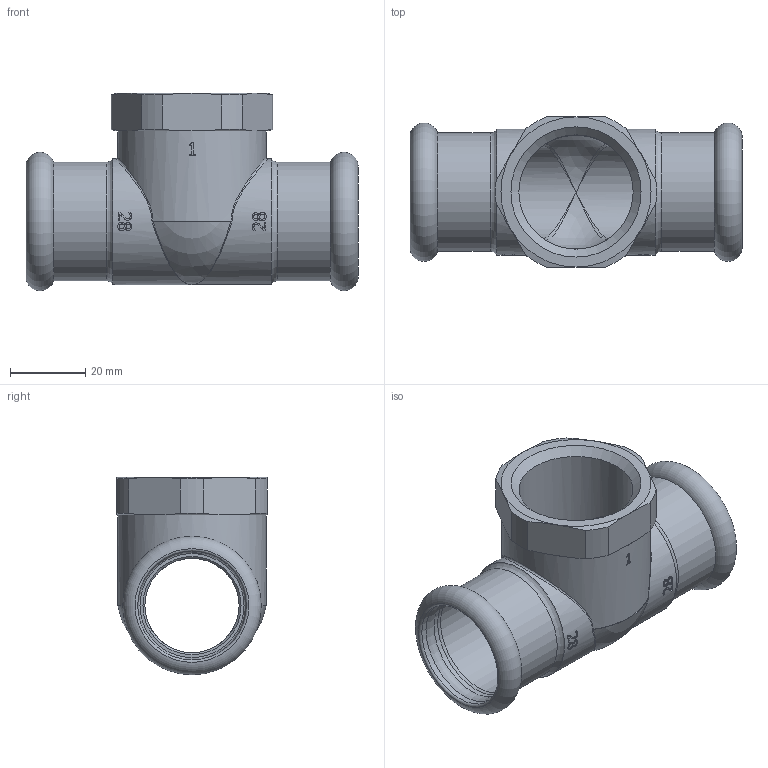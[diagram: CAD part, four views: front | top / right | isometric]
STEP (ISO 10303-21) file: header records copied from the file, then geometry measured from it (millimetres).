
FILE_DESCRIPTION(/* description */ (''),/* implementation_level */ '2;1');
FILE_NAME(/* name */ 'R:\Disegni3D_Area_Manager\Inoxpres.step\189_INOXPRES\189100028_Inoxpres.stp',/* time_stamp */ '2022-10-12T08:04:39+02:00',/* author */ ('Vault'),/* organization */ ('Raccorderie metalliche s.p.a. '),/* preprocessor_version */ 'ST-DEVELOPER v18.1',/* originating_system */ 'Autodesk Inventor 2020',/* authorisation */ 'Raccorderie metalliche s.p.a. ');
FILE_SCHEMA (('AUTOMOTIVE_DESIGN { 1 0 10303 214 3 1 1 }'));
Length unit declared in the file: millimetre
Products named in the file (1): 189100028_Inoxpres
Bounding box: 88 x 39.8 x 52.34 mm (x, y, z)
Volume: 34982.6 mm3; surface area: 21610.8 mm2
Topology: 1 solids, 1 shells, 181 faces, 482 edges, 304 vertices
Faces by surface type: bspline 81, plane 36, cylinder 29, torus 16, cone 15, sphere 4
Full cylindrical faces by diameter (mm): 25 x2, 28.4 x2, 28.8 x4, 30.291 x1, 31.4 x2, 33.4 x2, 39.4 x1
Entity records: 9093 total; most frequent: CARTESIAN_POINT 5144, ORIENTED_EDGE 948, DIRECTION 605, EDGE_CURVE 474, VERTEX_POINT 304, AXIS2_PLACEMENT_3D 232, EDGE_LOOP 194, FACE_OUTER_BOUND 181
